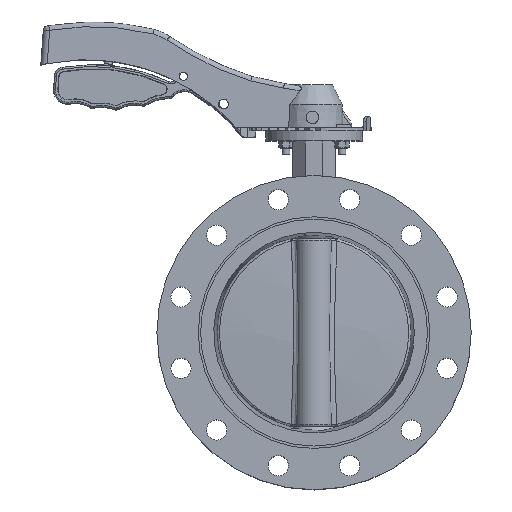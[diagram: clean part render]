
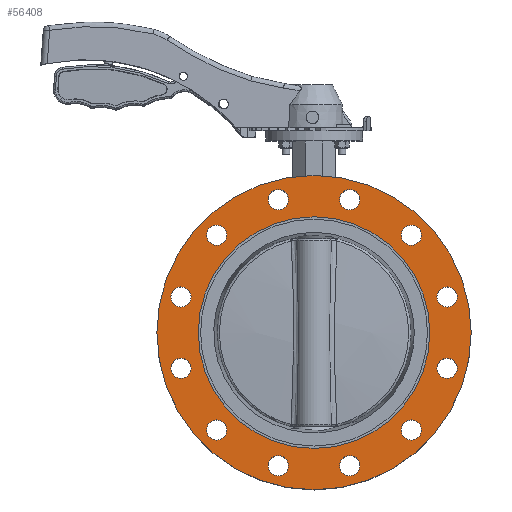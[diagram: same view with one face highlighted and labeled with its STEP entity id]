
A CAD part, top view. The second image highlights one B-rep face of the part: STEP entity #56408.
In plain terms, the highlighted planar face has unit normal (0, 0, 1).
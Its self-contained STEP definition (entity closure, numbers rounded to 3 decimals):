
#184 = EDGE_CURVE ( 'NONE', #7985, #7985, #10471, .T. ) ;
#396 = EDGE_CURVE ( 'NONE', #39421, #39421, #10519, .T. ) ;
#416 = ORIENTED_EDGE ( 'NONE', *, *, #34084, .T. ) ;
#1942 = AXIS2_PLACEMENT_3D ( 'NONE', #67401, #62341, #11381 ) ;
#1963 = DIRECTION ( 'NONE',  ( -1., 0., 0. ) ) ;
#2337 = AXIS2_PLACEMENT_3D ( 'NONE', #27649, #59364, #1963 ) ;
#2343 = EDGE_CURVE ( 'NONE', #61646, #61646, #2759, .T. ) ;
#2759 = CIRCLE ( 'NONE', #11478, 13. ) ;
#3042 = DIRECTION ( 'NONE',  ( -1., 0., 0. ) ) ;
#3424 = CARTESIAN_POINT ( 'NONE',  ( -45.94, 171.452, 79.5 ) ) ;
#3525 = DIRECTION ( 'NONE',  ( -1., 0., 0. ) ) ;
#4406 = DIRECTION ( 'NONE',  ( -1., 0., 0. ) ) ;
#4839 = AXIS2_PLACEMENT_3D ( 'NONE', #10489, #5688, #15988 ) ;
#4889 = VERTEX_POINT ( 'NONE', #66716 ) ;
#4911 = DIRECTION ( 'NONE',  ( -1., 0., 0. ) ) ;
#5608 = DIRECTION ( 'NONE',  ( 0., 0., -1. ) ) ;
#5688 = DIRECTION ( 'NONE',  ( 0., 0., 1. ) ) ;
#5701 = EDGE_LOOP ( 'NONE', ( #44270 ) ) ;
#5751 = CARTESIAN_POINT ( 'NONE',  ( 158.452, 45.94, 79.5 ) ) ;
#6037 = DIRECTION ( 'NONE',  ( 0., 0., -1. ) ) ;
#7227 = AXIS2_PLACEMENT_3D ( 'NONE', #56118, #60609, #3525 ) ;
#7744 = ORIENTED_EDGE ( 'NONE', *, *, #2343, .T. ) ;
#7985 = VERTEX_POINT ( 'NONE', #18606 ) ;
#8706 = CIRCLE ( 'NONE', #60006, 13. ) ;
#8768 = AXIS2_PLACEMENT_3D ( 'NONE', #27624, #23464, #39131 ) ;
#9060 = FACE_BOUND ( 'NONE', #9585, .T. ) ;
#9585 = EDGE_LOOP ( 'NONE', ( #48858 ) ) ;
#10471 = CIRCLE ( 'NONE', #57400, 13. ) ;
#10489 = CARTESIAN_POINT ( 'NONE',  ( 0., 0., 79.5 ) ) ;
#10519 = CIRCLE ( 'NONE', #53045, 13. ) ;
#10738 = CARTESIAN_POINT ( 'NONE',  ( -138.511, -125.511, 79.5 ) ) ;
#10924 = EDGE_CURVE ( 'NONE', #26152, #26152, #37225, .T. ) ;
#10983 = DIRECTION ( 'NONE',  ( 0., 0., -1. ) ) ;
#11375 = CARTESIAN_POINT ( 'NONE',  ( -138.511, 125.511, 79.5 ) ) ;
#11381 = DIRECTION ( 'NONE',  ( -1., 0., 0. ) ) ;
#11478 = AXIS2_PLACEMENT_3D ( 'NONE', #26765, #10983, #42371 ) ;
#12057 = CARTESIAN_POINT ( 'NONE',  ( 32.94, 171.452, 79.5 ) ) ;
#12102 = CIRCLE ( 'NONE', #54660, 13. ) ;
#12678 = AXIS2_PLACEMENT_3D ( 'NONE', #66442, #35419, #56234 ) ;
#13532 = FACE_OUTER_BOUND ( 'NONE', #62621, .T. ) ;
#14223 = FACE_BOUND ( 'NONE', #26200, .T. ) ;
#14777 = AXIS2_PLACEMENT_3D ( 'NONE', #36040, #5608, #4911 ) ;
#14890 = CIRCLE ( 'NONE', #12678, 13. ) ;
#15187 = EDGE_CURVE ( 'NONE', #4889, #4889, #24095, .T. ) ;
#15452 = DIRECTION ( 'NONE',  ( 0., 0., 1. ) ) ;
#15988 = DIRECTION ( 'NONE',  ( 1., 0., 0. ) ) ;
#16219 = VERTEX_POINT ( 'NONE', #47887 ) ;
#16890 = VERTEX_POINT ( 'NONE', #12057 ) ;
#17165 = DIRECTION ( 'NONE',  ( -1., 0., 0. ) ) ;
#17450 = ORIENTED_EDGE ( 'NONE', *, *, #184, .T. ) ;
#17553 = VERTEX_POINT ( 'NONE', #26514 ) ;
#17994 = CIRCLE ( 'NONE', #4839, 202.5 ) ;
#18606 = CARTESIAN_POINT ( 'NONE',  ( -184.452, 45.94, 79.5 ) ) ;
#18781 = DIRECTION ( 'NONE',  ( 0., 0., -1. ) ) ;
#19507 = DIRECTION ( 'NONE',  ( 0., 0., -1. ) ) ;
#19696 = FACE_BOUND ( 'NONE', #49835, .T. ) ;
#19712 = ORIENTED_EDGE ( 'NONE', *, *, #40480, .T. ) ;
#20786 = CARTESIAN_POINT ( 'NONE',  ( -149.2, 0., 79.5 ) ) ;
#21724 = DIRECTION ( 'NONE',  ( 0., 0., -1. ) ) ;
#22332 = VERTEX_POINT ( 'NONE', #30092 ) ;
#22703 = EDGE_LOOP ( 'NONE', ( #19712 ) ) ;
#22780 = EDGE_LOOP ( 'NONE', ( #51367 ) ) ;
#23464 = DIRECTION ( 'NONE',  ( 0., 0., -1. ) ) ;
#24095 = CIRCLE ( 'NONE', #8768, 13. ) ;
#25464 = EDGE_LOOP ( 'NONE', ( #27259 ) ) ;
#25746 = AXIS2_PLACEMENT_3D ( 'NONE', #33818, #18781, #3042 ) ;
#25990 = DIRECTION ( 'NONE',  ( 0., 0., -1. ) ) ;
#26152 = VERTEX_POINT ( 'NONE', #50666 ) ;
#26200 = EDGE_LOOP ( 'NONE', ( #7744 ) ) ;
#26514 = CARTESIAN_POINT ( 'NONE',  ( 112.511, -125.511, 79.5 ) ) ;
#26765 = CARTESIAN_POINT ( 'NONE',  ( -125.511, -125.511, 79.5 ) ) ;
#26834 = CARTESIAN_POINT ( 'NONE',  ( 202.5, 0., 79.5 ) ) ;
#27259 = ORIENTED_EDGE ( 'NONE', *, *, #30925, .T. ) ;
#27624 = CARTESIAN_POINT ( 'NONE',  ( -45.94, -171.452, 79.5 ) ) ;
#27649 = CARTESIAN_POINT ( 'NONE',  ( 125.511, 125.511, 79.5 ) ) ;
#28211 = AXIS2_PLACEMENT_3D ( 'NONE', #57767, #15452, #62236 ) ;
#28969 = FACE_BOUND ( 'NONE', #22703, .T. ) ;
#29769 = EDGE_LOOP ( 'NONE', ( #17450 ) ) ;
#30092 = CARTESIAN_POINT ( 'NONE',  ( 32.94, -171.452, 79.5 ) ) ;
#30206 = EDGE_CURVE ( 'NONE', #16219, #16219, #56208, .T. ) ;
#30925 = EDGE_CURVE ( 'NONE', #17553, #17553, #14890, .T. ) ;
#31392 = DIRECTION ( 'NONE',  ( 1., 0., 0. ) ) ;
#31598 = VERTEX_POINT ( 'NONE', #53349 ) ;
#31895 = EDGE_LOOP ( 'NONE', ( #44472 ) ) ;
#32033 = EDGE_CURVE ( 'NONE', #16890, #16890, #44422, .T. ) ;
#33438 = CIRCLE ( 'NONE', #7227, 13. ) ;
#33518 = CARTESIAN_POINT ( 'NONE',  ( -171.452, 45.94, 79.5 ) ) ;
#33818 = CARTESIAN_POINT ( 'NONE',  ( -171.452, -45.94, 79.5 ) ) ;
#34084 = EDGE_CURVE ( 'NONE', #31598, #31598, #8706, .T. ) ;
#34259 = AXIS2_PLACEMENT_3D ( 'NONE', #20786, #6037, #31392 ) ;
#35419 = DIRECTION ( 'NONE',  ( 0., 0., -1. ) ) ;
#35507 = CARTESIAN_POINT ( 'NONE',  ( 149.2, 0., 79.5 ) ) ;
#36040 = CARTESIAN_POINT ( 'NONE',  ( -125.511, 125.511, 79.5 ) ) ;
#37225 = CIRCLE ( 'NONE', #2337, 13. ) ;
#37361 = VERTEX_POINT ( 'NONE', #26834 ) ;
#38340 = EDGE_CURVE ( 'NONE', #37361, #37361, #17994, .T. ) ;
#38610 = EDGE_CURVE ( 'NONE', #53693, #53693, #59495, .T. ) ;
#39131 = DIRECTION ( 'NONE',  ( -1., 0., 0. ) ) ;
#39421 = VERTEX_POINT ( 'NONE', #67053 ) ;
#39470 = FACE_BOUND ( 'NONE', #63149, .T. ) ;
#40128 = FACE_BOUND ( 'NONE', #52293, .T. ) ;
#40480 = EDGE_CURVE ( 'NONE', #22332, #22332, #33438, .T. ) ;
#42371 = DIRECTION ( 'NONE',  ( -1., 0., 0. ) ) ;
#42505 = DIRECTION ( 'NONE',  ( -1., 0., 0. ) ) ;
#43393 = CIRCLE ( 'NONE', #28211, 149.2 ) ;
#44270 = ORIENTED_EDGE ( 'NONE', *, *, #15187, .T. ) ;
#44422 = CIRCLE ( 'NONE', #1942, 13. ) ;
#44472 = ORIENTED_EDGE ( 'NONE', *, *, #10924, .T. ) ;
#45276 = FACE_BOUND ( 'NONE', #31895, .T. ) ;
#45613 = FACE_BOUND ( 'NONE', #5701, .T. ) ;
#45737 = DIRECTION ( 'NONE',  ( -1., 0., 0. ) ) ;
#47046 = VERTEX_POINT ( 'NONE', #5751 ) ;
#47887 = CARTESIAN_POINT ( 'NONE',  ( -184.452, -45.94, 79.5 ) ) ;
#48858 = ORIENTED_EDGE ( 'NONE', *, *, #38610, .T. ) ;
#49003 = EDGE_LOOP ( 'NONE', ( #49197 ) ) ;
#49197 = ORIENTED_EDGE ( 'NONE', *, *, #32033, .T. ) ;
#49835 = EDGE_LOOP ( 'NONE', ( #50127 ) ) ;
#50127 = ORIENTED_EDGE ( 'NONE', *, *, #58615, .F. ) ;
#50666 = CARTESIAN_POINT ( 'NONE',  ( 112.511, 125.511, 79.5 ) ) ;
#51367 = ORIENTED_EDGE ( 'NONE', *, *, #396, .T. ) ;
#52293 = EDGE_LOOP ( 'NONE', ( #416 ) ) ;
#52636 = EDGE_LOOP ( 'NONE', ( #55177 ) ) ;
#53045 = AXIS2_PLACEMENT_3D ( 'NONE', #3424, #19507, #45737 ) ;
#53349 = CARTESIAN_POINT ( 'NONE',  ( 158.452, -45.94, 79.5 ) ) ;
#53693 = VERTEX_POINT ( 'NONE', #11375 ) ;
#54660 = AXIS2_PLACEMENT_3D ( 'NONE', #57922, #21724, #42505 ) ;
#54664 = DIRECTION ( 'NONE',  ( 0., 0., -1. ) ) ;
#55177 = ORIENTED_EDGE ( 'NONE', *, *, #62085, .T. ) ;
#55862 = FACE_BOUND ( 'NONE', #29769, .T. ) ;
#56118 = CARTESIAN_POINT ( 'NONE',  ( 45.94, -171.452, 79.5 ) ) ;
#56208 = CIRCLE ( 'NONE', #25746, 13. ) ;
#56234 = DIRECTION ( 'NONE',  ( -1., 0., 0. ) ) ;
#56340 = CARTESIAN_POINT ( 'NONE',  ( 171.452, -45.94, 79.5 ) ) ;
#56408 = ADVANCED_FACE ( 'NONE', ( #19696, #13532, #45276, #66093, #40128, #61032, #28969, #45613, #14223, #39470, #55862, #9060, #62473, #62122 ), #67517, .F. ) ;
#57400 = AXIS2_PLACEMENT_3D ( 'NONE', #33518, #54664, #17165 ) ;
#57767 = CARTESIAN_POINT ( 'NONE',  ( 0., 0., 79.5 ) ) ;
#57922 = CARTESIAN_POINT ( 'NONE',  ( 171.452, 45.94, 79.5 ) ) ;
#58615 = EDGE_CURVE ( 'NONE', #65550, #65550, #43393, .T. ) ;
#59364 = DIRECTION ( 'NONE',  ( 0., 0., -1. ) ) ;
#59495 = CIRCLE ( 'NONE', #14777, 13. ) ;
#60006 = AXIS2_PLACEMENT_3D ( 'NONE', #56340, #25990, #4406 ) ;
#60609 = DIRECTION ( 'NONE',  ( 0., 0., -1. ) ) ;
#61032 = FACE_BOUND ( 'NONE', #25464, .T. ) ;
#61646 = VERTEX_POINT ( 'NONE', #10738 ) ;
#62085 = EDGE_CURVE ( 'NONE', #47046, #47046, #12102, .T. ) ;
#62122 = FACE_BOUND ( 'NONE', #49003, .T. ) ;
#62236 = DIRECTION ( 'NONE',  ( 1., 0., 0. ) ) ;
#62341 = DIRECTION ( 'NONE',  ( 0., 0., -1. ) ) ;
#62473 = FACE_BOUND ( 'NONE', #22780, .T. ) ;
#62621 = EDGE_LOOP ( 'NONE', ( #64457 ) ) ;
#63149 = EDGE_LOOP ( 'NONE', ( #64609 ) ) ;
#64457 = ORIENTED_EDGE ( 'NONE', *, *, #38340, .T. ) ;
#64609 = ORIENTED_EDGE ( 'NONE', *, *, #30206, .T. ) ;
#65550 = VERTEX_POINT ( 'NONE', #35507 ) ;
#66093 = FACE_BOUND ( 'NONE', #52636, .T. ) ;
#66442 = CARTESIAN_POINT ( 'NONE',  ( 125.511, -125.511, 79.5 ) ) ;
#66716 = CARTESIAN_POINT ( 'NONE',  ( -58.94, -171.452, 79.5 ) ) ;
#67053 = CARTESIAN_POINT ( 'NONE',  ( -58.94, 171.452, 79.5 ) ) ;
#67401 = CARTESIAN_POINT ( 'NONE',  ( 45.94, 171.452, 79.5 ) ) ;
#67517 = PLANE ( 'NONE',  #34259 ) ;
